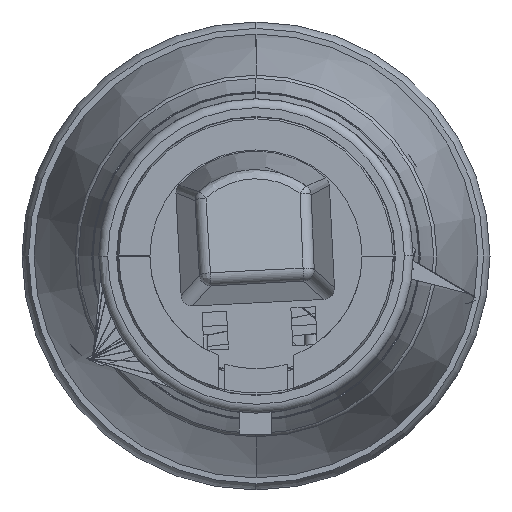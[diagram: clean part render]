
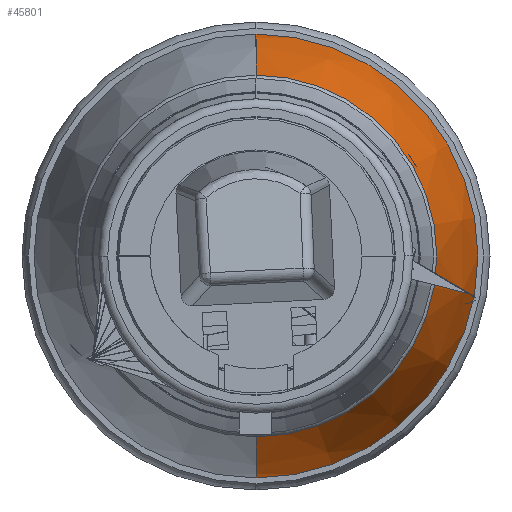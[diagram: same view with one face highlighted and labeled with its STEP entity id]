
A CAD part, left-side view. The second image highlights one B-rep face of the part: STEP entity #45801.
In plain terms, the highlighted face is a revolution surface.
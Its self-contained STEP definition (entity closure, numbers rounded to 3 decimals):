
#45443=CARTESIAN_POINT('',(164.267,0.,0.));
#45444=DIRECTION('',(1.,0.,0.));
#45445=DIRECTION('',(0.,0.,1.));
#45446=AXIS2_PLACEMENT_3D('',#45443,#45444,#45445);
#45448=CARTESIAN_POINT('',(164.267,0.,
20.659));
#45449=CARTESIAN_POINT('',(173.292,0.,
23.508));
#45450=CARTESIAN_POINT('',(177.838,0.,24.925));
#45451=CARTESIAN_POINT('',(183.364,0.,25.353));
#45453=CARTESIAN_POINT('',(164.267,0.,
-20.659));
#45454=CARTESIAN_POINT('',(173.292,0.,
-23.508));
#45455=CARTESIAN_POINT('',(177.838,0.,-24.925));
#45456=CARTESIAN_POINT('',(183.364,0.,-25.353));
#45468=CARTESIAN_POINT('',(183.364,0.,0.));
#45469=DIRECTION('',(1.,0.,0.));
#45470=DIRECTION('',(0.,0.,1.));
#45471=AXIS2_PLACEMENT_3D('',#45468,#45469,#45470);
#45548=CARTESIAN_POINT('',(183.364,0.,25.353));
#45549=CARTESIAN_POINT('',(183.364,0.,-25.353));
#45550=VERTEX_POINT('',#45548);
#45551=VERTEX_POINT('',#45549);
#45552=CARTESIAN_POINT('',(164.267,0.,
20.659));
#45553=CARTESIAN_POINT('',(164.267,0.,
-20.659));
#45554=VERTEX_POINT('',#45552);
#45555=VERTEX_POINT('',#45553);
#45783=CARTESIAN_POINT('',(183.562,0.,25.368));
#45784=CARTESIAN_POINT('',(183.496,0.,25.364));
#45785=CARTESIAN_POINT('',(177.854,0.,24.939));
#45786=CARTESIAN_POINT('',(173.229,0.,23.489));
#45787=CARTESIAN_POINT('',(164.079,0.,20.6));
#45789=CARTESIAN_POINT('',(216.789,0.,0.));
#45790=DIRECTION('',(-1.,0.,0.));
#45791=AXIS1_PLACEMENT('',#45789,#45790);
#45792=SURFACE_OF_REVOLUTION('',#45788,#45791);
#45794=ORIENTED_EDGE('',*,*,#45793,.F.);
#45795=ORIENTED_EDGE('',*,*,#45778,.T.);
#45797=ORIENTED_EDGE('',*,*,#45796,.T.);
#45798=ORIENTED_EDGE('',*,*,#45774,.F.);
#45799=EDGE_LOOP('',(#45794,#45795,#45797,#45798));
#45800=FACE_OUTER_BOUND('',#45799,.F.);
#45801=ADVANCED_FACE('',(#45800),#45792,.T.);
#45447=CIRCLE('',#45446,20.659);
#45452=B_SPLINE_CURVE_WITH_KNOTS('',3,(#45448,#45449,#45450,#45451),
.UNSPECIFIED.,.F.,.F.,(4,4),(0.,1.),.UNSPECIFIED.);
#45457=B_SPLINE_CURVE_WITH_KNOTS('',3,(#45453,#45454,#45455,#45456),
.UNSPECIFIED.,.F.,.F.,(4,4),(0.,1.),.UNSPECIFIED.);
#45472=CIRCLE('',#45471,25.353);
#45774=EDGE_CURVE('',#45555,#45551,#45457,.T.);
#45778=EDGE_CURVE('',#45554,#45550,#45452,.T.);
#45788=B_SPLINE_CURVE_WITH_KNOTS('',3,(#45783,#45784,#45785,#45786,#45787),
.UNSPECIFIED.,.F.,.F.,(4,1,4),(0.,0.012,1.),.UNSPECIFIED.);
#45793=EDGE_CURVE('',#45554,#45555,#45447,.T.);
#45796=EDGE_CURVE('',#45550,#45551,#45472,.T.);
